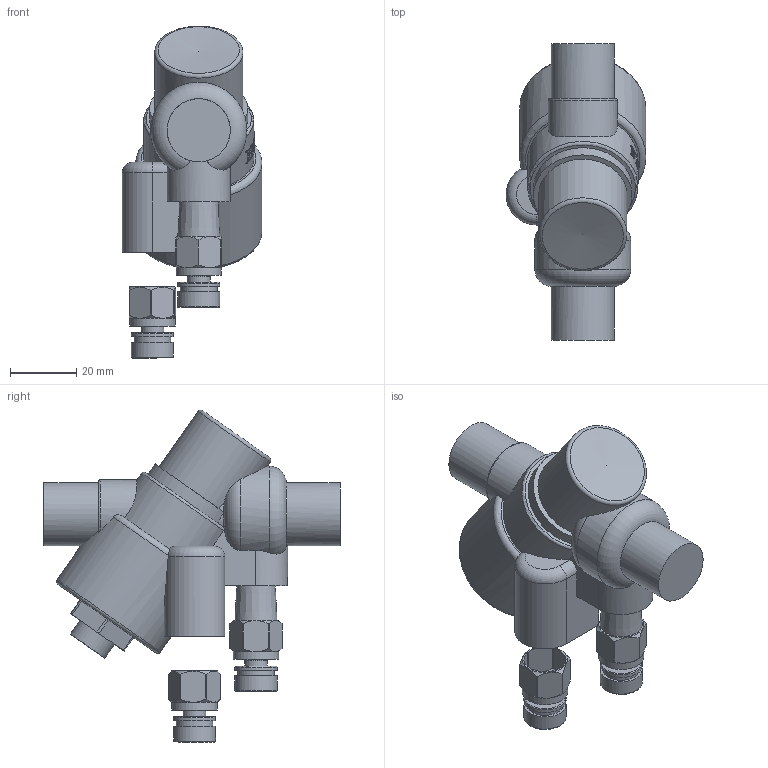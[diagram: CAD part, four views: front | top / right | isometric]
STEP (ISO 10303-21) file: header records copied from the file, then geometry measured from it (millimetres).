
FILE_DESCRIPTION(/* description */ (''),/* implementation_level */ '2;1');
FILE_NAME(/* name */ 'C:\Users\acc1\OneDrive\Desktop\STP and DWG files\AFLM\AFLM1_STEP.stp',/* time_stamp */ '2021-07-16T09:41:42-05:00',/* author */ ('acc1'),/* organization */ (''),/* preprocessor_version */ 'ST-DEVELOPER v18.1',/* originating_system */ 'Autodesk Inventor 2022',/* authorisation */ '');
FILE_SCHEMA (('AUTOMOTIVE_DESIGN { 1 0 10303 214 3 1 1 }'));
Length unit declared in the file: inch
Products named in the file (1): AFLM1_Assembly_Simplify_1
Bounding box: 42.16 x 89.41 x 100.15 mm (x, y, z)
Volume: 100172.5 mm3; surface area: 18261.8 mm2
Topology: 3 solids, 3 shells, 257 faces, 678 edges, 447 vertices
Faces by surface type: plane 111, bspline 62, cylinder 51, cone 17, torus 16
Full cylindrical faces by diameter (mm): 6.894 x2, 11.125 x2, 12.7 x5, 13.716 x2, 19.05 x2, 26.655 x1, 38.1 x1
Entity records: 9744 total; most frequent: CARTESIAN_POINT 3548, ORIENTED_EDGE 1354, DIRECTION 1036, EDGE_CURVE 677, VERTEX_POINT 447, AXIS2_PLACEMENT_3D 382, EDGE_LOOP 278, LINE 272
